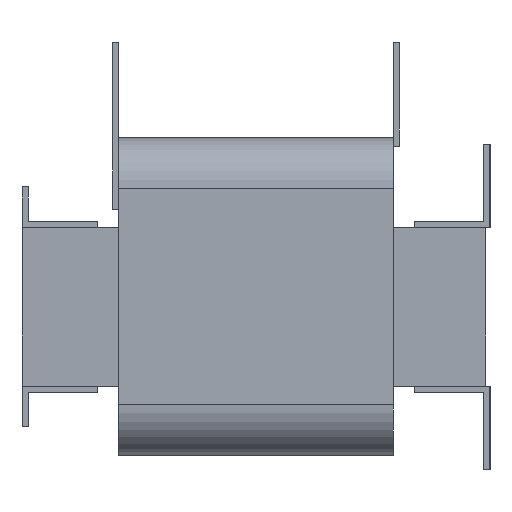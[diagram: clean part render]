
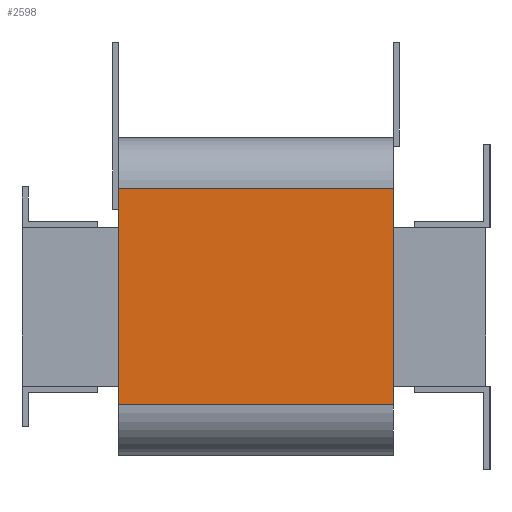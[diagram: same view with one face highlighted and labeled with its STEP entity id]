
A CAD part, left-side view. The second image highlights one B-rep face of the part: STEP entity #2598.
In plain terms, the highlighted planar face has unit normal (-1, 0, 0).
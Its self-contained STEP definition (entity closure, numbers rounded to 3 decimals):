
#102=PLANE('',#2804);
#231=FACE_OUTER_BOUND('',#381,.T.);
#381=EDGE_LOOP('',(#2166,#2167,#2168,#2169));
#630=LINE('',#4035,#948);
#649=LINE('',#4085,#967);
#650=LINE('',#4088,#968);
#651=LINE('',#4089,#969);
#948=VECTOR('',#3290,10.);
#967=VECTOR('',#3335,10.);
#968=VECTOR('',#3338,10.);
#969=VECTOR('',#3339,10.);
#1291=VERTEX_POINT('',#4032);
#1292=VERTEX_POINT('',#4034);
#1310=VERTEX_POINT('',#4083);
#1311=VERTEX_POINT('',#4087);
#1601=EDGE_CURVE('',#1291,#1292,#630,.T.);
#1627=EDGE_CURVE('',#1310,#1291,#649,.T.);
#1628=EDGE_CURVE('',#1310,#1311,#650,.T.);
#1629=EDGE_CURVE('',#1292,#1311,#651,.T.);
#2166=ORIENTED_EDGE('',*,*,#1627,.F.);
#2167=ORIENTED_EDGE('',*,*,#1628,.T.);
#2168=ORIENTED_EDGE('',*,*,#1629,.F.);
#2169=ORIENTED_EDGE('',*,*,#1601,.F.);
#2598=ADVANCED_FACE('',(#231),#102,.T.);
#2804=AXIS2_PLACEMENT_3D('',#4086,#3336,#3337);
#3290=DIRECTION('',(0.,0.,1.));
#3335=DIRECTION('',(0.,1.,0.));
#3336=DIRECTION('center_axis',(-1.,0.,0.));
#3337=DIRECTION('ref_axis',(0.,0.,1.));
#3338=DIRECTION('',(0.,0.,1.));
#3339=DIRECTION('',(0.,-1.,0.));
#4032=CARTESIAN_POINT('',(-174.,182.5,-48.));
#4034=CARTESIAN_POINT('',(-174.,182.5,58.));
#4035=CARTESIAN_POINT('',(-174.,182.5,-73.));
#4083=CARTESIAN_POINT('',(-174.,47.5,-48.));
#4085=CARTESIAN_POINT('',(-174.,47.5,-48.));
#4086=CARTESIAN_POINT('Origin',(-174.,47.5,-73.));
#4087=CARTESIAN_POINT('',(-174.,47.5,58.));
#4088=CARTESIAN_POINT('',(-174.,47.5,-73.));
#4089=CARTESIAN_POINT('',(-174.,47.5,58.));
